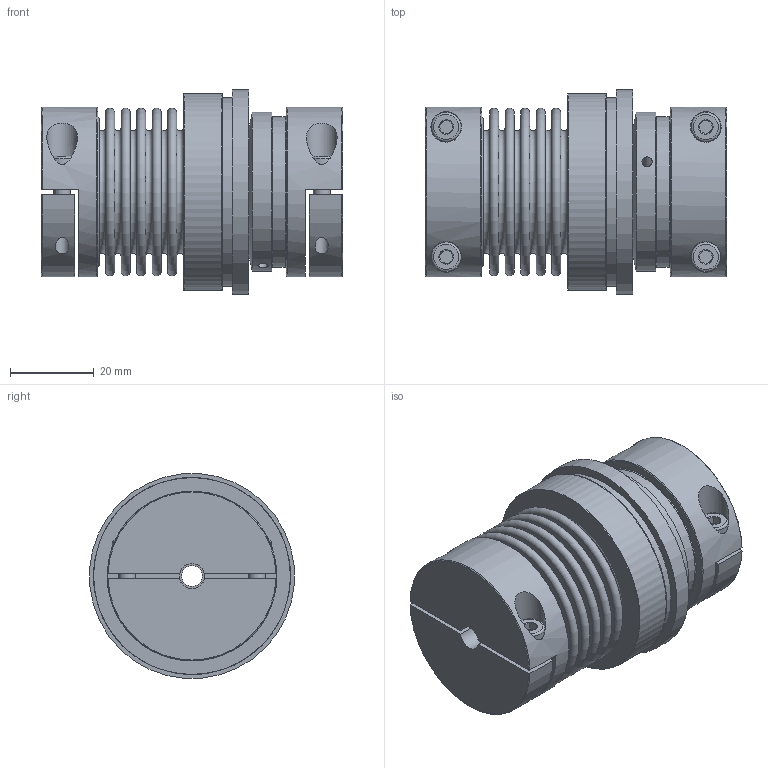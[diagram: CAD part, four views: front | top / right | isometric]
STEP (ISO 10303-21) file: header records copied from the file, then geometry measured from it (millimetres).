
FILE_DESCRIPTION( ( 'KBE1/14 - N7H8 - N14H7 - 98 Sh' ), '1' );
FILE_NAME( 'K:/Konstruktion/Fertigungszeichnungen/Überlastkupplung/KBK-B/KBK-BHH/10/KBK-BHH-10-72.stp', '14.12.2015', ( 'KBK-Antriebstechnik' ), ( 'KBK-Antriebstechnik' ), 'PSStep 16.0.42', 'Solid Edge St6', ' ' );
FILE_SCHEMA( ( 'AUTOMOTIVE_DESIGN { 1 0 10303 214 1 1 1 1 }' ) );
Length unit declared in the file: millimetre
Products named in the file (23): Druckring 10; KB2H3-100-oa5; KNH-100-oa3; SN100-oa4; L-P-10 Grundteil-oa2; L-P-10 Grundteil-oa1; Stellring 10; a_20; 61804-2RS1; _61804-2RS1_PART1; _61804-2RS1_PART2; _61804-2RS1_PART3; KBK-B-H-10-oa6; Flansch BK10; Assem1; BK100_Standard_2; KNH-100-oa0; ISO EN DIN 4762 M4x12
Assembly tree (38 placements, depth 4):
  Assem1
    Flansch BK10
    BK100_Standard_2
    KNH-100-oa0
    KNH-100-oa0
    ISO EN DIN 4762 M4x12  x4
    KBK-B-H-10-oa6
      Flansch BK10
      L-P-10 Grundteil-oa2
        L-P-10 Grundteil-oa1
      Stellring 10
        Stellring 10
      Druckring 10
        Druckring 10
      a_20
        a_20
      KB2H3-100-oa5
        KNH-100-oa3
        KNH-100-oa3
        SN100-oa4
      61804-2RS1
        _61804-2RS1_PART1
        _61804-2RS1_PART2
        _61804-2RS1_PART3  x13
Bounding box: 71.95 x 48.87 x 48.87 mm (x, y, z)
Volume: 75373.1 mm3; surface area: 62250.7 mm2
Topology: 31 solids, 31 shells, 330 faces, 638 edges, 397 vertices
Faces by surface type: plane 132, cylinder 88, cone 51, torus 46, sphere 13
Full cylindrical faces by diameter (mm): 2 x2, 2.459 x2, 3.242 x4, 3.5 x4, 4 x8, 4.2 x4, 5 x1, 6 x1, 7 x4, 7.3 x4, 16 x2, 19 x1, 20 x3, 23.85 x4, 24 x2, 25 x2, 26 x2, 28.25 x2, 29.4 x4, 29.993 x1, 32 x3, 35.2 x3, 35.8 x2, 36 x1, 36.3 x1, 38 x1, 40 x1, 40.5 x2, 45 x1, 47 x2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
Entity records: 8202 total; most frequent: CARTESIAN_POINT 1542, DIRECTION 1080, ORIENTED_EDGE 632, AXIS2_PLACEMENT_3D 507, EDGE_LOOP 442, FACE_OUTER_BOUND 336, EDGE_CURVE 316, VERTEX_POINT 285
